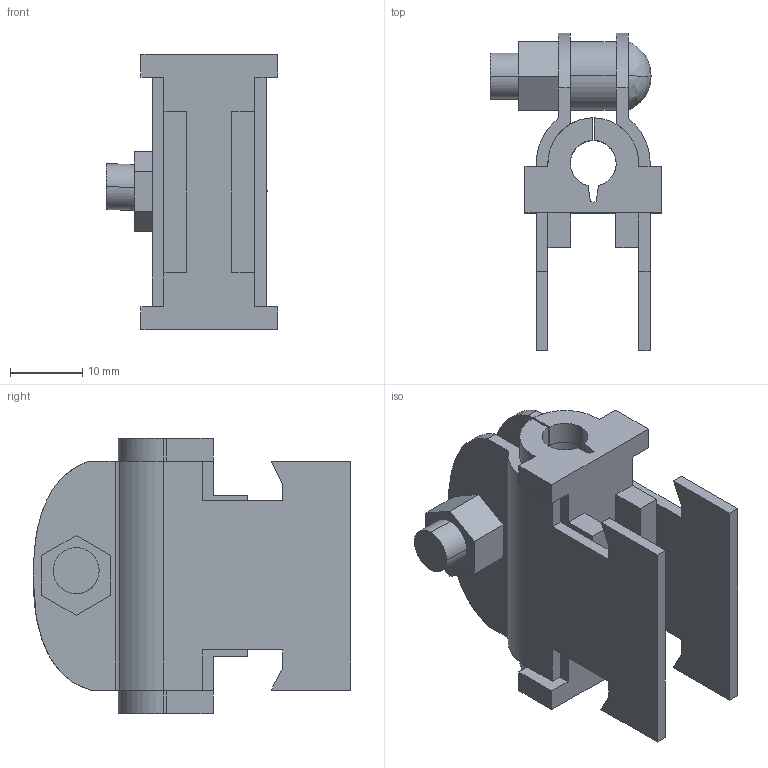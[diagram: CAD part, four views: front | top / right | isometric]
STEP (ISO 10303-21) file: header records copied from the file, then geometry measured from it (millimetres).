
FILE_DESCRIPTION(('TurboCAD Mac Pro'),'Build 980');
FILE_NAME('004T008.stp',' ',(''),(''),'ACIS Interop','IMSI','TurboCAD Mac Pro BY IMSI, INCORPORATED');
FILE_SCHEMA(('automotive_design'));
Length unit declared in the file: inch
Products named in the file (6): 1; 2; 3; 4; 5; 6
Bounding box: 23.66 x 43.94 x 38.1 mm (x, y, z)
Volume: 10896.1 mm3; surface area: 10602.7 mm2
Topology: 6 solids, 6 shells, 146 faces, 387 edges, 254 vertices
Faces by surface type: plane 104, bspline 42
Entity records: 8539 total; most frequent: CARTESIAN_POINT 1977, ORIENTED_EDGE 774, STYLED_ITEM 539, PRESENTATION_STYLE_ASSIGNMENT 539, COLOUR_RGB 539, DIRECTION 521, EDGE_CURVE 387, CURVE_STYLE 387
